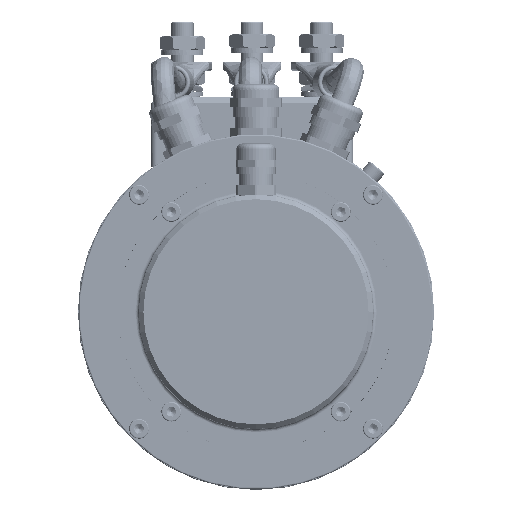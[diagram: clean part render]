
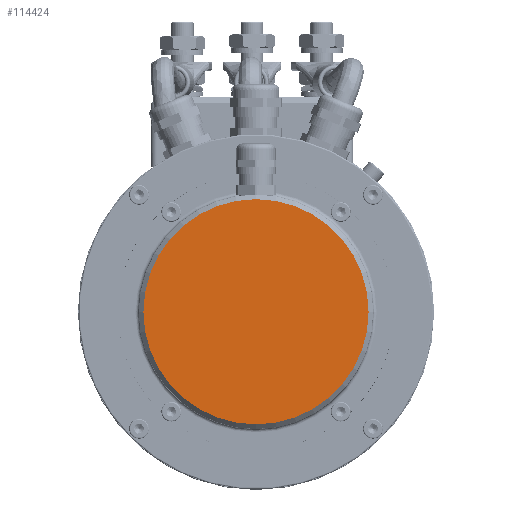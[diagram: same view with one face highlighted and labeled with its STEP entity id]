
A CAD part, left-side view. The second image highlights one B-rep face of the part: STEP entity #114424.
In plain terms, the highlighted planar face has unit normal (-1, 0, 0).
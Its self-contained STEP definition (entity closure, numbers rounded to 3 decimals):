
#3610=PLANE('',#121984);
#8472=FACE_OUTER_BOUND('',#14905,.T.);
#14905=EDGE_LOOP('',(#82096));
#21929=CIRCLE('',#121980,48.5);
#48839=VERTEX_POINT('',#180076);
#60980=EDGE_CURVE('',#48839,#48839,#21929,.T.);
#82096=ORIENTED_EDGE('',*,*,#60980,.F.);
#114424=ADVANCED_FACE('',(#8472),#3610,.T.);
#121980=AXIS2_PLACEMENT_3D('',#180077,#139647,#139648);
#121984=AXIS2_PLACEMENT_3D('',#180082,#139656,#139657);
#139647=DIRECTION('center_axis',(1.,0.,0.));
#139648=DIRECTION('ref_axis',(0.,0.,
-1.));
#139656=DIRECTION('center_axis',(-1.,0.,0.));
#139657=DIRECTION('ref_axis',(0.,0.,
1.));
#180076=CARTESIAN_POINT('',(-307.,0.,48.5));
#180077=CARTESIAN_POINT('Origin',(-307.,0.,
0.));
#180082=CARTESIAN_POINT('Origin',(-307.,0.,
25.25));
